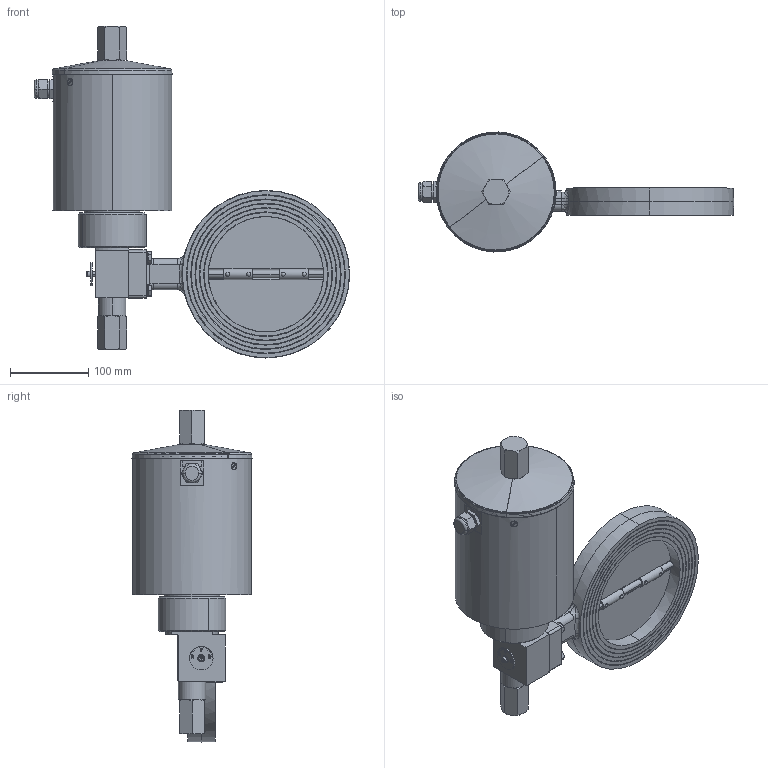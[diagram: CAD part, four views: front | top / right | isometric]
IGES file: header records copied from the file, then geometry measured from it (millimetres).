
Global section: file name: No Iges File Name specified; native system: AutoDesk Inventor R12.0; preprocessor: AutoDesk Inventor Iges Exporter R12.0; date: 20100923.130926; units: millimetre
Bounding box: 404.05 x 153.78 x 425.35 mm (x, y, z)
Volume: 4710108.6 mm3; surface area: 349492.6 mm2
Topology: 1 solids, 1 shells, 768 faces, 2009 edges, 1276 vertices
Faces by surface type: plane 413, cylinder 104, bspline 98, cone 84, revolution 43, torus 18, sphere 8
